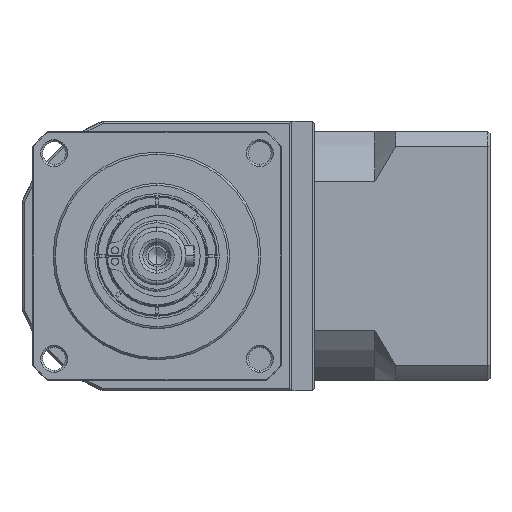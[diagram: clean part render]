
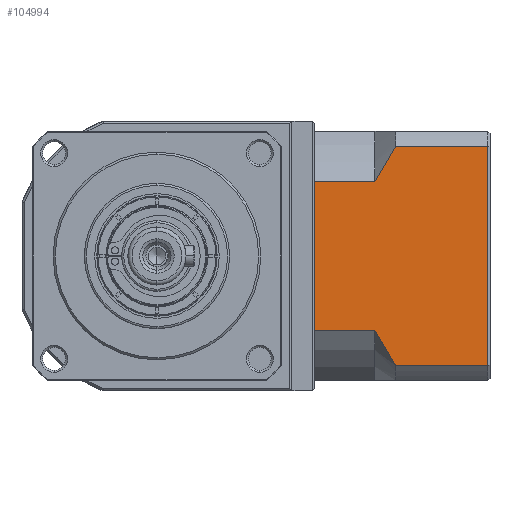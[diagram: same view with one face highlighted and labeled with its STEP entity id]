
A CAD part, left-side view. The second image highlights one B-rep face of the part: STEP entity #104994.
In plain terms, the highlighted planar face has unit normal (-1, 0, 0).
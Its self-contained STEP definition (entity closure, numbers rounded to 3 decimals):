
#871 = ORIENTED_EDGE ( 'NONE', *, *, #49287, .T. ) ;
#1924 = ORIENTED_EDGE ( 'NONE', *, *, #87916, .F. ) ;
#4322 = DIRECTION ( 'NONE',  ( 0., -1., 0. ) ) ;
#4496 = DIRECTION ( 'NONE',  ( 0., 0., 1. ) ) ;
#8107 = CARTESIAN_POINT ( 'NONE',  ( -155.404, -32.438, 52.648 ) ) ;
#12716 = LINE ( 'NONE', #102778, #50056 ) ;
#16266 = CARTESIAN_POINT ( 'NONE',  ( -155.404, 9.262, 8.163 ) ) ;
#16746 = VERTEX_POINT ( 'NONE', #178920 ) ;
#17927 = CARTESIAN_POINT ( 'NONE',  ( -155.404, 9.262, -3.809 ) ) ;
#20223 = CARTESIAN_POINT ( 'NONE',  ( -155.404, -6.789, 47.102 ) ) ;
#20737 = LINE ( 'NONE', #121121, #95414 ) ;
#34479 = CARTESIAN_POINT ( 'NONE',  ( -155.404, -5.238, 44.218 ) ) ;
#34562 = EDGE_CURVE ( 'NONE', #62771, #174791, #126729, .T. ) ;
#36578 = VERTEX_POINT ( 'NONE', #8107 ) ;
#37126 = DIRECTION ( 'NONE',  ( 0., 1., 0. ) ) ;
#37766 = LINE ( 'NONE', #172411, #107943 ) ;
#39531 = CARTESIAN_POINT ( 'NONE',  ( -155.404, -5.238, -0.267 ) ) ;
#44599 = LINE ( 'NONE', #39531, #119168 ) ;
#49287 = EDGE_CURVE ( 'NONE', #62771, #126636, #110410, .T. ) ;
#50056 = VECTOR ( 'NONE', #4496, 1000. ) ;
#51883 = VERTEX_POINT ( 'NONE', #80442 ) ;
#53035 = DIRECTION ( 'NONE',  ( 0., 1., 0. ) ) ;
#57787 = DIRECTION ( 'NONE',  ( 0., -1., 0. ) ) ;
#62029 = CARTESIAN_POINT ( 'NONE',  ( -155.404, -10.238, 52.648 ) ) ;
#62771 = VERTEX_POINT ( 'NONE', #108650 ) ;
#67103 = CARTESIAN_POINT ( 'NONE',  ( -155.404, -8.463, 2.476 ) ) ;
#69723 = CARTESIAN_POINT ( 'NONE',  ( -155.404, -32.938, -3.809 ) ) ;
#80442 = CARTESIAN_POINT ( 'NONE',  ( -155.404, -10.238, 52.648 ) ) ;
#81215 = CARTESIAN_POINT ( 'NONE',  ( -155.404, -10.238, -0.267 ) ) ;
#82496 = VERTEX_POINT ( 'NONE', #145540 ) ;
#83886 = DIRECTION ( 'NONE',  ( 0., 1., 0. ) ) ;
#85083 = ORIENTED_EDGE ( 'NONE', *, *, #98916, .T. ) ;
#87916 = EDGE_CURVE ( 'NONE', #51883, #36578, #37766, .T. ) ;
#88528 = ORIENTED_EDGE ( 'NONE', *, *, #92310, .F. ) ;
#89135 = DIRECTION ( 'NONE',  ( 0., 0., -1. ) ) ;
#89424 = VECTOR ( 'NONE', #57787, 1000. ) ;
#92310 = EDGE_CURVE ( 'NONE', #141378, #82496, #44599, .T. ) ;
#93256 = EDGE_CURVE ( 'NONE', #51883, #174791, #172110, .T. ) ;
#95414 = VECTOR ( 'NONE', #37126, 1000. ) ;
#98916 = EDGE_CURVE ( 'NONE', #141378, #36578, #12716, .T. ) ;
#99523 = CARTESIAN_POINT ( 'NONE',  ( -155.404, -5.238, 44.218 ) ) ;
#102778 = CARTESIAN_POINT ( 'NONE',  ( -155.404, -32.438, -3.809 ) ) ;
#104152 = B_SPLINE_CURVE_WITH_KNOTS ( 'NONE', 3,
 ( #122961, #137031, #151073, #67103, #165118, #81215 ),
 .UNSPECIFIED., .F., .F.,
 ( 4, 2, 4 ),
 ( 0.1, 0.104, 0.109 ),
 .UNSPECIFIED. ) ;
#104350 = CARTESIAN_POINT ( 'NONE',  ( -155.404, -8.465, 49.91 ) ) ;
#104994 = ADVANCED_FACE ( 'NONE', ( #165082 ), #167168, .F. ) ;
#106010 = VECTOR ( 'NONE', #89135, 1000. ) ;
#107109 = ORIENTED_EDGE ( 'NONE', *, *, #126917, .F. ) ;
#107943 = VECTOR ( 'NONE', #4322, 1000. ) ;
#108650 = CARTESIAN_POINT ( 'NONE',  ( -155.404, 9.262, 44.218 ) ) ;
#109704 = AXIS2_PLACEMENT_3D ( 'NONE', #69723, #167754, #83886 ) ;
#110410 = LINE ( 'NONE', #17927, #106010 ) ;
#118449 = CARTESIAN_POINT ( 'NONE',  ( -155.404, -5.986, 45.671 ) ) ;
#119168 = VECTOR ( 'NONE', #53035, 1000. ) ;
#119472 = CARTESIAN_POINT ( 'NONE',  ( -155.404, -5.238, 44.218 ) ) ;
#121121 = CARTESIAN_POINT ( 'NONE',  ( -155.404, -5.238, 8.163 ) ) ;
#122961 = CARTESIAN_POINT ( 'NONE',  ( -155.404, -5.238, 8.163 ) ) ;
#126636 = VERTEX_POINT ( 'NONE', #16266 ) ;
#126729 = LINE ( 'NONE', #99523, #89424 ) ;
#126917 = EDGE_CURVE ( 'NONE', #16746, #126636, #20737, .T. ) ;
#137031 = CARTESIAN_POINT ( 'NONE',  ( -155.404, -5.988, 6.706 ) ) ;
#137685 = CARTESIAN_POINT ( 'NONE',  ( -155.404, -32.438, -0.267 ) ) ;
#141378 = VERTEX_POINT ( 'NONE', #137685 ) ;
#141604 = EDGE_CURVE ( 'NONE', #16746, #82496, #104152, .T. ) ;
#145540 = CARTESIAN_POINT ( 'NONE',  ( -155.404, -10.238, -0.267 ) ) ;
#150971 = EDGE_LOOP ( 'NONE', ( #88528, #85083, #1924, #171037, #165864, #871, #107109, #166089 ) ) ;
#151073 = CARTESIAN_POINT ( 'NONE',  ( -155.404, -6.789, 5.281 ) ) ;
#165082 = FACE_OUTER_BOUND ( 'NONE', #150971, .T. ) ;
#165118 = CARTESIAN_POINT ( 'NONE',  ( -155.404, -9.337, 1.096 ) ) ;
#165864 = ORIENTED_EDGE ( 'NONE', *, *, #34562, .F. ) ;
#166089 = ORIENTED_EDGE ( 'NONE', *, *, #141604, .T. ) ;
#167168 = PLANE ( 'NONE',  #109704 ) ;
#167754 = DIRECTION ( 'NONE',  ( 1., 0., 0. ) ) ;
#171037 = ORIENTED_EDGE ( 'NONE', *, *, #93256, .T. ) ;
#172110 = B_SPLINE_CURVE_WITH_KNOTS ( 'NONE', 3,
 ( #62029, #174179, #104350, #20223, #118449, #34479 ),
 .UNSPECIFIED., .F., .F.,
 ( 4, 2, 4 ),
 ( 0.052, 0.057, 0.062 ),
 .UNSPECIFIED. ) ;
#172411 = CARTESIAN_POINT ( 'NONE',  ( -155.404, -5.238, 52.648 ) ) ;
#174179 = CARTESIAN_POINT ( 'NONE',  ( -155.404, -9.338, 51.288 ) ) ;
#174791 = VERTEX_POINT ( 'NONE', #119472 ) ;
#178920 = CARTESIAN_POINT ( 'NONE',  ( -155.404, -5.238, 8.163 ) ) ;
